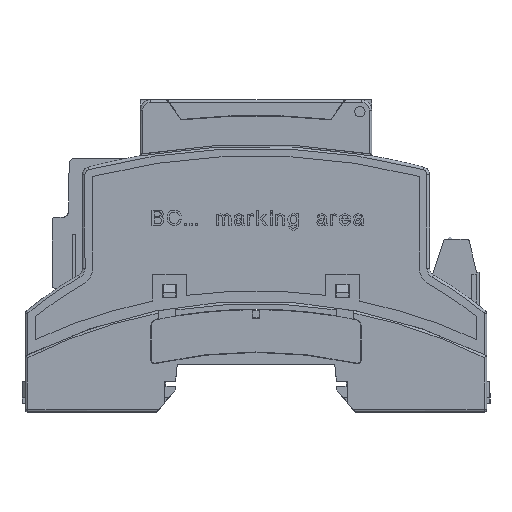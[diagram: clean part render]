
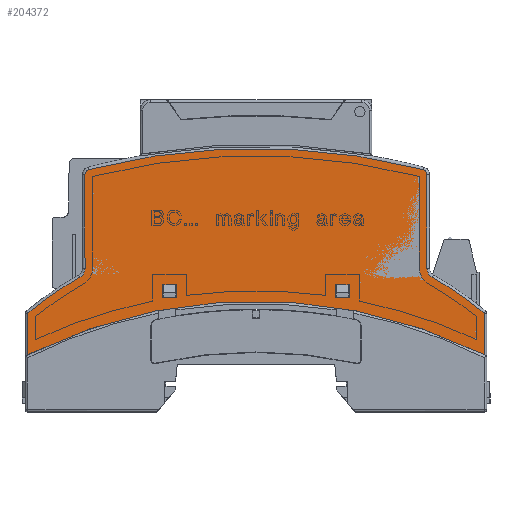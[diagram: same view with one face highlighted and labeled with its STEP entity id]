
A CAD part, front view. The second image highlights one B-rep face of the part: STEP entity #204372.
In plain terms, the highlighted planar face has unit normal (0, -1, 0).
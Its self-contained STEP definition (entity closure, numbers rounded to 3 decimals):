
#2020=FACE_BOUND('',#22605,.T.);
#2021=FACE_BOUND('',#22606,.T.);
#2708=CIRCLE('',#215096,129.2);
#2709=CIRCLE('',#215097,1.);
#2710=CIRCLE('',#215098,2.);
#2711=CIRCLE('',#215099,69.5);
#2712=CIRCLE('',#215100,99.5);
#2713=CIRCLE('',#215101,69.5);
#2714=CIRCLE('',#215102,2.);
#2715=CIRCLE('',#215103,1.);
#12119=FACE_OUTER_BOUND('',#22604,.T.);
#22604=EDGE_LOOP('',(#180242,#180243,#180244,#180245,#180246,#180247,#180248,
#180249,#180250,#180251,#180252,#180253));
#22605=EDGE_LOOP('',(#180254,#180255,#180256,#180257));
#22606=EDGE_LOOP('',(#180258,#180259,#180260,#180261));
#49261=LINE('',#319312,#77209);
#49409=LINE('',#319780,#77357);
#49441=LINE('',#319860,#77389);
#49442=LINE('',#319866,#77390);
#49443=LINE('',#319870,#77391);
#49444=LINE('',#319877,#77392);
#49445=LINE('',#319879,#77393);
#49446=LINE('',#319881,#77394);
#49447=LINE('',#319882,#77395);
#49448=LINE('',#319885,#77396);
#49449=LINE('',#319886,#77397);
#49450=LINE('',#319887,#77398);
#77209=VECTOR('',#261194,1.);
#77357=VECTOR('',#261468,1.);
#77389=VECTOR('',#261532,1.);
#77390=VECTOR('',#261537,1.);
#77391=VECTOR('',#261540,1.);
#77392=VECTOR('',#261547,1.);
#77393=VECTOR('',#261548,1.);
#77394=VECTOR('',#261549,1.);
#77395=VECTOR('',#261550,1.);
#77396=VECTOR('',#261551,1.);
#77397=VECTOR('',#261552,1.);
#77398=VECTOR('',#261553,1.);
#97013=VERTEX_POINT('',#319309);
#97014=VERTEX_POINT('',#319311);
#97181=VERTEX_POINT('',#319778);
#97182=VERTEX_POINT('',#319779);
#97211=VERTEX_POINT('',#319854);
#97212=VERTEX_POINT('',#319855);
#97213=VERTEX_POINT('',#319857);
#97214=VERTEX_POINT('',#319859);
#97215=VERTEX_POINT('',#319861);
#97216=VERTEX_POINT('',#319863);
#97217=VERTEX_POINT('',#319865);
#97218=VERTEX_POINT('',#319867);
#97219=VERTEX_POINT('',#319869);
#97220=VERTEX_POINT('',#319871);
#97221=VERTEX_POINT('',#319875);
#97222=VERTEX_POINT('',#319876);
#97223=VERTEX_POINT('',#319878);
#97224=VERTEX_POINT('',#319880);
#97225=VERTEX_POINT('',#319883);
#97226=VERTEX_POINT('',#319884);
#124970=EDGE_CURVE('',#97013,#97014,#49261,.T.);
#125153=EDGE_CURVE('',#97181,#97182,#49409,.T.);
#125189=EDGE_CURVE('',#97211,#97212,#2708,.T.);
#125190=EDGE_CURVE('',#97211,#97213,#2709,.T.);
#125191=EDGE_CURVE('',#97213,#97214,#49441,.T.);
#125192=EDGE_CURVE('',#97215,#97214,#2710,.T.);
#125193=EDGE_CURVE('',#97215,#97216,#2711,.T.);
#125194=EDGE_CURVE('',#97216,#97217,#49442,.T.);
#125195=EDGE_CURVE('',#97218,#97217,#2712,.T.);
#125196=EDGE_CURVE('',#97219,#97218,#49443,.T.);
#125197=EDGE_CURVE('',#97220,#97219,#2713,.T.);
#125198=EDGE_CURVE('',#97220,#97182,#2714,.T.);
#125199=EDGE_CURVE('',#97181,#97212,#2715,.T.);
#125200=EDGE_CURVE('',#97221,#97222,#49444,.T.);
#125201=EDGE_CURVE('',#97223,#97221,#49445,.T.);
#125202=EDGE_CURVE('',#97224,#97223,#49446,.T.);
#125203=EDGE_CURVE('',#97222,#97224,#49447,.T.);
#125204=EDGE_CURVE('',#97225,#97226,#49448,.T.);
#125205=EDGE_CURVE('',#97014,#97225,#49449,.T.);
#125206=EDGE_CURVE('',#97226,#97013,#49450,.T.);
#180242=ORIENTED_EDGE('',*,*,#125189,.F.);
#180243=ORIENTED_EDGE('',*,*,#125190,.T.);
#180244=ORIENTED_EDGE('',*,*,#125191,.T.);
#180245=ORIENTED_EDGE('',*,*,#125192,.F.);
#180246=ORIENTED_EDGE('',*,*,#125193,.T.);
#180247=ORIENTED_EDGE('',*,*,#125194,.T.);
#180248=ORIENTED_EDGE('',*,*,#125195,.F.);
#180249=ORIENTED_EDGE('',*,*,#125196,.F.);
#180250=ORIENTED_EDGE('',*,*,#125197,.F.);
#180251=ORIENTED_EDGE('',*,*,#125198,.T.);
#180252=ORIENTED_EDGE('',*,*,#125153,.F.);
#180253=ORIENTED_EDGE('',*,*,#125199,.T.);
#180254=ORIENTED_EDGE('',*,*,#125200,.F.);
#180255=ORIENTED_EDGE('',*,*,#125201,.F.);
#180256=ORIENTED_EDGE('',*,*,#125202,.F.);
#180257=ORIENTED_EDGE('',*,*,#125203,.F.);
#180258=ORIENTED_EDGE('',*,*,#125204,.F.);
#180259=ORIENTED_EDGE('',*,*,#125205,.F.);
#180260=ORIENTED_EDGE('',*,*,#124970,.F.);
#180261=ORIENTED_EDGE('',*,*,#125206,.F.);
#194498=PLANE('',#215095);
#204372=ADVANCED_FACE('',(#12119,#2020,#2021),#194498,.F.);
#215095=AXIS2_PLACEMENT_3D('',#319853,#261526,#261527);
#215096=AXIS2_PLACEMENT_3D('',#319856,#261528,#261529);
#215097=AXIS2_PLACEMENT_3D('',#319858,#261530,#261531);
#215098=AXIS2_PLACEMENT_3D('',#319862,#261533,#261534);
#215099=AXIS2_PLACEMENT_3D('',#319864,#261535,#261536);
#215100=AXIS2_PLACEMENT_3D('',#319868,#261538,#261539);
#215101=AXIS2_PLACEMENT_3D('',#319872,#261541,#261542);
#215102=AXIS2_PLACEMENT_3D('',#319873,#261543,#261544);
#215103=AXIS2_PLACEMENT_3D('',#319874,#261545,#261546);
#261194=DIRECTION('',(-1.,0.,0.));
#261468=DIRECTION('',(0.,0.,-1.));
#261526=DIRECTION('center_axis',(0.,1.,0.));
#261527=DIRECTION('ref_axis',(1.,0.,0.));
#261528=DIRECTION('center_axis',(0.,1.,0.));
#261529=DIRECTION('ref_axis',(1.,0.,0.));
#261530=DIRECTION('center_axis',(0.,-1.,0.));
#261531=DIRECTION('ref_axis',(-1.,0.,0.));
#261532=DIRECTION('',(0.,0.,-1.));
#261533=DIRECTION('center_axis',(0.,-1.,0.));
#261534=DIRECTION('ref_axis',(0.,0.,
1.));
#261535=DIRECTION('center_axis',(0.,-1.,0.));
#261536=DIRECTION('ref_axis',(0.,0.,
1.));
#261537=DIRECTION('',(0.,0.,-1.));
#261538=DIRECTION('center_axis',(0.,-1.,0.));
#261539=DIRECTION('ref_axis',(1.,0.,0.));
#261540=DIRECTION('',(0.,0.,-1.));
#261541=DIRECTION('center_axis',(0.,1.,0.));
#261542=DIRECTION('ref_axis',(0.,0.,
-1.));
#261543=DIRECTION('center_axis',(0.,1.,0.));
#261544=DIRECTION('ref_axis',(0.,0.,
-1.));
#261545=DIRECTION('center_axis',(0.,-1.,0.));
#261546=DIRECTION('ref_axis',(-1.,0.,0.));
#261547=DIRECTION('',(0.,0.,-1.));
#261548=DIRECTION('',(-1.,0.,0.));
#261549=DIRECTION('',(0.,0.,1.));
#261550=DIRECTION('',(1.,0.,0.));
#261551=DIRECTION('',(1.,0.,0.));
#261552=DIRECTION('',(0.,0.,-1.));
#261553=DIRECTION('',(0.,0.,1.));
#319309=CARTESIAN_POINT('',(-15.5,9.6,39.6));
#319311=CARTESIAN_POINT('',(-18.1,9.6,39.6));
#319312=CARTESIAN_POINT('',(-5.65,9.6,39.6));
#319778=CARTESIAN_POINT('',(33.25,9.6,60.977));
#319779=CARTESIAN_POINT('',(33.25,9.6,42.757));
#319780=CARTESIAN_POINT('',(33.25,9.6,18.5));
#319853=CARTESIAN_POINT('Origin',(18.346,9.6,58.789));
#319854=CARTESIAN_POINT('',(-32.502,9.6,61.945));
#319855=CARTESIAN_POINT('',(32.502,9.6,61.945));
#319856=CARTESIAN_POINT('Origin',(0.,9.6,
-63.1));
#319857=CARTESIAN_POINT('',(-33.25,9.6,60.977));
#319858=CARTESIAN_POINT('Origin',(-32.25,9.6,60.977));
#319859=CARTESIAN_POINT('',(-33.25,9.6,42.757));
#319860=CARTESIAN_POINT('',(-33.25,9.6,18.5));
#319861=CARTESIAN_POINT('',(-34.264,9.6,41.017));
#319862=CARTESIAN_POINT('Origin',(-35.25,9.6,42.757));
#319863=CARTESIAN_POINT('',(-44.35,9.6,34.06));
#319864=CARTESIAN_POINT('Origin',(0.,9.6,
-19.45));
#319865=CARTESIAN_POINT('',(-44.35,9.6,25.969));
#319866=CARTESIAN_POINT('',(-44.35,9.6,58.789));
#319867=CARTESIAN_POINT('',(44.35,9.6,25.969));
#319868=CARTESIAN_POINT('Origin',(0.,9.6,
-63.1));
#319869=CARTESIAN_POINT('',(44.35,9.6,34.06));
#319870=CARTESIAN_POINT('',(44.35,9.6,18.5));
#319871=CARTESIAN_POINT('',(34.264,9.6,41.017));
#319872=CARTESIAN_POINT('Origin',(0.,9.6,
-19.45));
#319873=CARTESIAN_POINT('Origin',(35.25,9.6,42.757));
#319874=CARTESIAN_POINT('Origin',(32.25,9.6,60.977));
#319875=CARTESIAN_POINT('',(15.5,9.6,39.6));
#319876=CARTESIAN_POINT('',(15.5,9.6,37.));
#319877=CARTESIAN_POINT('',(15.5,9.6,18.5));
#319878=CARTESIAN_POINT('',(18.1,9.6,39.6));
#319879=CARTESIAN_POINT('',(-5.65,9.6,39.6));
#319880=CARTESIAN_POINT('',(18.1,9.6,37.));
#319881=CARTESIAN_POINT('',(18.1,9.6,18.5));
#319882=CARTESIAN_POINT('',(-5.65,9.6,37.));
#319883=CARTESIAN_POINT('',(-18.1,9.6,37.));
#319884=CARTESIAN_POINT('',(-15.5,9.6,37.));
#319885=CARTESIAN_POINT('',(-5.65,9.6,37.));
#319886=CARTESIAN_POINT('',(-18.1,9.6,18.5));
#319887=CARTESIAN_POINT('',(-15.5,9.6,18.5));
